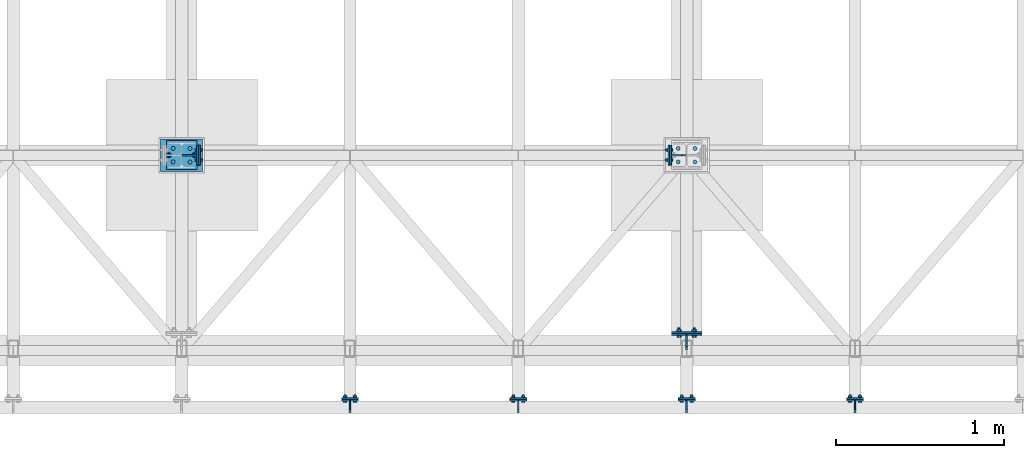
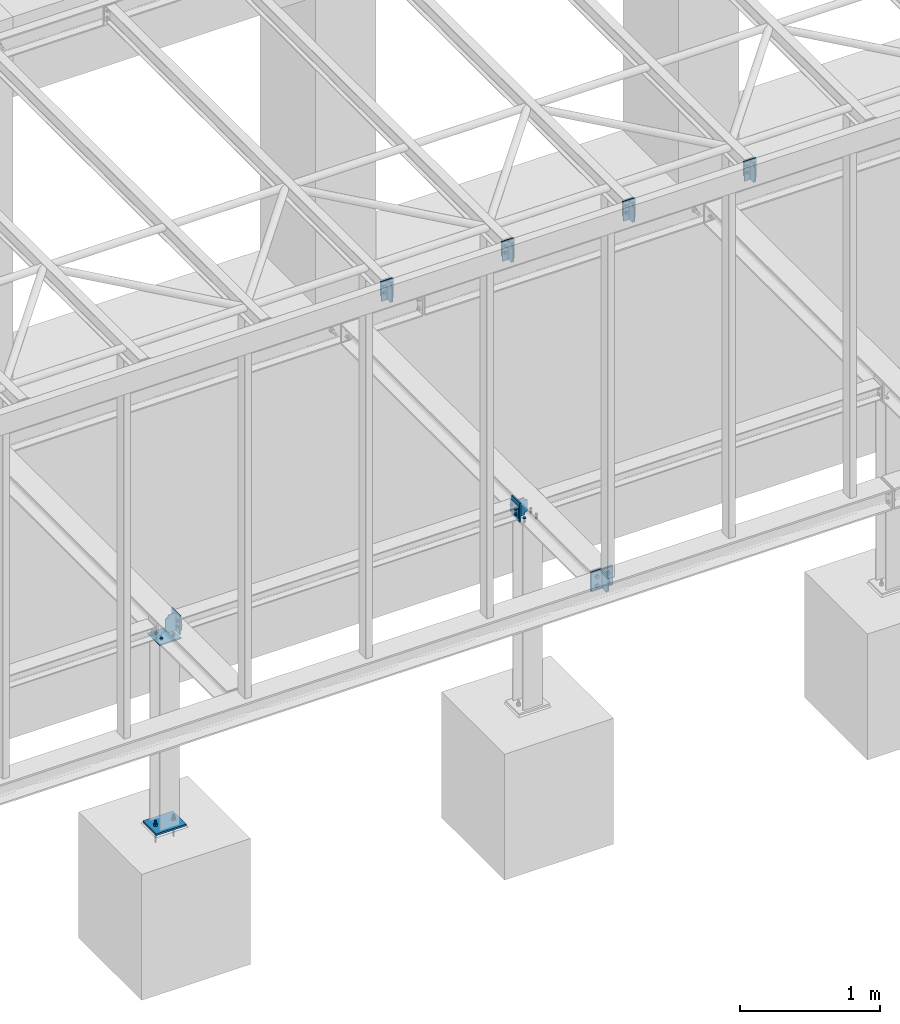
# One storey, part 13 of 23: 23 discrete accessories, 10 mechanical fasteners, 12 elements without a shape of their own.
"""IFC2X3 building model written with IfcOpenShell, lengths in millimetres."""

from ifc_helpers import new_model, si_unit, frame, frame_2d, origin_with_axes, origin_2d_with_axis, place, context, subcontext, project, spatial, polyline, circle_curve, parameter, trimmed, segment, composite_curve, circle, outline, extrude, source, transform, mapped, material, type_object, element, aggregate, save


model = new_model("IFC2X3")

# Units and contexts
model_context = context("Model", 3, precision=1e-05, world=origin_with_axes())
body_context = subcontext(model_context, "Body", "Model", "MODEL_VIEW")
ifc_project = project(units=[si_unit("LENGTHUNIT", "METRE", prefix="MILLI"), si_unit("AREAUNIT", "SQUARE_METRE"), si_unit("VOLUMEUNIT", "CUBIC_METRE"), si_unit("MASSUNIT", "GRAM", prefix="KILO"), si_unit("TIMEUNIT", "SECOND"), si_unit("PLANEANGLEUNIT", "RADIAN"), si_unit("SOLIDANGLEUNIT", "STERADIAN"), si_unit("THERMODYNAMICTEMPERATUREUNIT", "DEGREE_CELSIUS"), si_unit("LUMINOUSINTENSITYUNIT", "LUMEN")], contexts=[model_context])

# Site, building, storey
site_placement = place(None, origin_with_axes())
site = spatial("IfcSite", under=ifc_project, at=site_placement, Name="Undefined", CompositionType="ELEMENT")
building_placement = place(site_placement, origin_with_axes())
building = spatial("IfcBuilding", under=site, at=building_placement, Name="Undefined", CompositionType="ELEMENT")
storey_placement = place(building_placement, origin_with_axes())
storey = spatial("IfcBuildingStorey", under=building, at=storey_placement, Name="Undefined", CompositionType="ELEMENT", Elevation=0.0)

# Assembly, discrete accessory
assembly_1_placement = place(storey_placement, origin_with_axes())
assembly_1 = element("IfcElementAssembly", 1, at=assembly_1_placement, inside=storey, Name="Steel Assembly", AssemblyPlace="NOTDEFINED", PredefinedType="RIGID_FRAME")
ifc_material_1 = material(Name="STEEL/S235JR")
discrete_accessory_type_1 = type_object("IfcDiscreteAccessoryType", Name="PLECH")
discrete_accessory_1_placement = place(assembly_1_placement, frame((7050.0, -200.0, 3289.5), z_axis=(1.0, 0.0, 0.0), x_axis=(0.0, -1.0, 0.0)))
discrete_accessory_1 = element("IfcDiscreteAccessory", 2, at=discrete_accessory_1_placement, type_object=discrete_accessory_type_1, material=ifc_material_1, Name="PLECH", ObjectType="PL8*70", context=body_context, shape_type="SweptSolid", body=[
    extrude(outline(composite_curve([segment(polyline([(0.0, 0.0), (49.5, 0.0)]), True, "CONTINUOUS"), segment(trimmed(circle_curve(frame_2d((69.5, 0.0), x_axis=(-1.0, 0.0)), 20.0), [parameter(0.0)], [parameter(4.71238898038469)], False, "PARAMETER"), True, "CONTINUOUS"), segment(polyline([(69.5, 20.0), (69.5, 139.0)]), True, "CONTINUOUS"), segment(trimmed(circle_curve(frame_2d((69.5, 159.0), x_axis=(0.0, -1.0)), 20.0), [parameter(0.0)], [parameter(4.71238898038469)], False, "PARAMETER"), True, "CONTINUOUS"), segment(polyline([(49.5, 159.0), (0.0, 159.0), (0.0, 0.0)]), True, "DISCONTINUOUS")], self_intersect=False)), frame((0.0, 0.0, -4.0), z_axis=(0.0, 0.0, 1.0), x_axis=(1.0, 0.0, 0.0)), (0.0, 0.0, 1.0), 8.0),
])

assembly_2_placement = place(storey_placement, origin_with_axes())
assembly_2 = element("IfcElementAssembly", 3, at=assembly_2_placement, inside=storey, Name="Steel Assembly", AssemblyPlace="NOTDEFINED", PredefinedType="RIGID_FRAME")
discrete_accessory_2_placement = place(assembly_2_placement, frame((7000.0, -185.0, 3166.5), z_axis=(0.0, 1.0, 0.0), x_axis=(0.0, 0.0, 1.0)))
discrete_accessory_2 = element("IfcDiscreteAccessory", 4, at=discrete_accessory_2_placement, type_object=discrete_accessory_type_1, material=ifc_material_1, Name="PLECH", ObjectType="PL10*100", context=body_context, shape_type="SweptSolid", body=[
    extrude(outline(polyline([(0.0, 0.0), (127.0, 0.0), (127.0, 100.0), (-9.09494701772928e-13, 100.0), (0.0, 0.0)])), frame((0.0, 0.0, -5.0), z_axis=(0.0, 0.0, 1.0), x_axis=(1.0, 0.0, 0.0)), (0.0, 0.0, 1.0), 10.0),
])
aggregate(assembly_2, [discrete_accessory_2])

# Discrete accessory
discrete_accessory_3_placement = place(assembly_1_placement, frame((7000.0, -195.0, 3127.5), z_axis=(0.0, 1.0, 0.0), x_axis=(0.0, 0.0, 1.0)))
discrete_accessory_3 = element("IfcDiscreteAccessory", 5, at=discrete_accessory_3_placement, type_object=discrete_accessory_type_1, material=ifc_material_1, Name="PLECH", ObjectType="PL10*100", context=body_context, shape_type="SweptSolid", body=[
    extrude(outline(polyline([(0.0, 0.0), (166.000015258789, 0.0), (166.000015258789, 100.0), (-9.09494701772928e-13, 100.0), (0.0, 0.0)])), frame((0.0, 0.0, -5.0), z_axis=(0.0, 0.0, 1.0), x_axis=(1.0, 0.0, 0.0)), (0.0, 0.0, 1.0), 10.0),
])

# Assembly, discrete accessory
assembly_3_placement = place(storey_placement, origin_with_axes())
assembly_3 = element("IfcElementAssembly", 6, at=assembly_3_placement, inside=storey, Name="Steel Assembly", AssemblyPlace="NOTDEFINED", PredefinedType="RIGID_FRAME")
discrete_accessory_4_placement = place(assembly_3_placement, frame((6050.0, -200.0, 3289.5), z_axis=(1.0, 0.0, 0.0), x_axis=(0.0, -1.0, 0.0)))
discrete_accessory_4 = element("IfcDiscreteAccessory", 7, at=discrete_accessory_4_placement, type_object=discrete_accessory_type_1, material=ifc_material_1, Name="PLECH", ObjectType="PL8*70", context=body_context, shape_type="SweptSolid", body=[
    extrude(outline(composite_curve([segment(polyline([(0.0, 0.0), (49.5, 0.0)]), True, "CONTINUOUS"), segment(trimmed(circle_curve(frame_2d((69.5, 0.0), x_axis=(-1.0, 0.0)), 20.0), [parameter(0.0)], [parameter(4.71238898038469)], False, "PARAMETER"), True, "CONTINUOUS"), segment(polyline([(69.5, 20.0), (69.5, 139.0)]), True, "CONTINUOUS"), segment(trimmed(circle_curve(frame_2d((69.5, 159.0), x_axis=(0.0, -1.0)), 20.0), [parameter(0.0)], [parameter(4.71238898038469)], False, "PARAMETER"), True, "CONTINUOUS"), segment(polyline([(49.5, 159.0), (0.0, 159.0), (0.0, 0.0)]), True, "DISCONTINUOUS")], self_intersect=False)), frame((0.0, 0.0, -4.0), z_axis=(0.0, 0.0, 1.0), x_axis=(1.0, 0.0, 0.0)), (0.0, 0.0, 1.0), 8.0),
])

assembly_4_placement = place(storey_placement, origin_with_axes())
assembly_4 = element("IfcElementAssembly", 8, at=assembly_4_placement, inside=storey, Name="Steel Assembly", AssemblyPlace="NOTDEFINED", PredefinedType="RIGID_FRAME")
discrete_accessory_5_placement = place(assembly_4_placement, frame((6000.0, -185.0, 3166.5), z_axis=(0.0, 1.0, 0.0), x_axis=(0.0, 0.0, 1.0)))
discrete_accessory_5 = element("IfcDiscreteAccessory", 9, at=discrete_accessory_5_placement, type_object=discrete_accessory_type_1, material=ifc_material_1, Name="PLECH", ObjectType="PL10*100", context=body_context, shape_type="SweptSolid", body=[
    extrude(outline(polyline([(0.0, 0.0), (127.0, 0.0), (127.0, 100.0), (-9.09494701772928e-13, 100.0), (0.0, 0.0)])), frame((0.0, 0.0, -5.0), z_axis=(0.0, 0.0, 1.0), x_axis=(1.0, 0.0, 0.0)), (0.0, 0.0, 1.0), 10.0),
])
aggregate(assembly_4, [discrete_accessory_5])

# Discrete accessory
discrete_accessory_6_placement = place(assembly_3_placement, frame((6000.0, -195.0, 3127.5), z_axis=(0.0, 1.0, 0.0), x_axis=(0.0, 0.0, 1.0)))
discrete_accessory_6 = element("IfcDiscreteAccessory", 10, at=discrete_accessory_6_placement, type_object=discrete_accessory_type_1, material=ifc_material_1, Name="PLECH", ObjectType="PL10*100", context=body_context, shape_type="SweptSolid", body=[
    extrude(outline(polyline([(0.0, 0.0), (166.000015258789, 0.0), (166.000015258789, 100.0), (-9.09494701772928e-13, 100.0), (0.0, 0.0)])), frame((0.0, 0.0, -5.0), z_axis=(0.0, 0.0, 1.0), x_axis=(1.0, 0.0, 0.0)), (0.0, 0.0, 1.0), 10.0),
])

discrete_accessory_7_placement = place(assembly_3_placement, frame((5050.0, -200.0, 3289.5), z_axis=(1.0, 0.0, 0.0), x_axis=(0.0, -1.0, 0.0)))
discrete_accessory_7 = element("IfcDiscreteAccessory", 11, at=discrete_accessory_7_placement, type_object=discrete_accessory_type_1, material=ifc_material_1, Name="PLECH", ObjectType="PL8*70", context=body_context, shape_type="SweptSolid", body=[
    extrude(outline(composite_curve([segment(polyline([(0.0, 0.0), (49.5, 0.0)]), True, "CONTINUOUS"), segment(trimmed(circle_curve(frame_2d((69.5, 0.0), x_axis=(-1.0, 0.0)), 20.0), [parameter(0.0)], [parameter(4.71238898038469)], False, "PARAMETER"), True, "CONTINUOUS"), segment(polyline([(69.5, 20.0), (69.5, 139.0)]), True, "CONTINUOUS"), segment(trimmed(circle_curve(frame_2d((69.5, 159.0), x_axis=(0.0, -1.0)), 20.0), [parameter(0.0)], [parameter(4.71238898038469)], False, "PARAMETER"), True, "CONTINUOUS"), segment(polyline([(49.5, 159.0), (0.0, 159.0), (0.0, 0.0)]), True, "DISCONTINUOUS")], self_intersect=False)), frame((0.0, 0.0, -4.0), z_axis=(0.0, 0.0, 1.0), x_axis=(1.0, 0.0, 0.0)), (0.0, 0.0, 1.0), 8.0),
])

# Assembly, discrete accessory
assembly_5_placement = place(storey_placement, origin_with_axes())
assembly_5 = element("IfcElementAssembly", 12, at=assembly_5_placement, inside=storey, Name="Steel Assembly", AssemblyPlace="NOTDEFINED", PredefinedType="RIGID_FRAME")
discrete_accessory_8_placement = place(assembly_5_placement, frame((5000.0, -185.0, 3166.5), z_axis=(0.0, 1.0, 0.0), x_axis=(0.0, 0.0, 1.0)))
discrete_accessory_8 = element("IfcDiscreteAccessory", 13, at=discrete_accessory_8_placement, type_object=discrete_accessory_type_1, material=ifc_material_1, Name="PLECH", ObjectType="PL10*100", context=body_context, shape_type="SweptSolid", body=[
    extrude(outline(polyline([(0.0, 0.0), (127.0, 0.0), (127.0, 100.0), (-9.09494701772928e-13, 100.0), (0.0, 0.0)])), frame((0.0, 0.0, -5.0), z_axis=(0.0, 0.0, 1.0), x_axis=(1.0, 0.0, 0.0)), (0.0, 0.0, 1.0), 10.0),
])
aggregate(assembly_5, [discrete_accessory_8])

# Discrete accessory
discrete_accessory_9_placement = place(assembly_3_placement, frame((5000.0, -195.0, 3127.5), z_axis=(0.0, 1.0, 0.0), x_axis=(0.0, 0.0, 1.0)))
discrete_accessory_9 = element("IfcDiscreteAccessory", 14, at=discrete_accessory_9_placement, type_object=discrete_accessory_type_1, material=ifc_material_1, Name="PLECH", ObjectType="PL10*100", context=body_context, shape_type="SweptSolid", body=[
    extrude(outline(polyline([(0.0, 0.0), (166.000015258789, 0.0), (166.000015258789, 100.0), (-9.09494701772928e-13, 100.0), (0.0, 0.0)])), frame((0.0, 0.0, -5.0), z_axis=(0.0, 0.0, 1.0), x_axis=(1.0, 0.0, 0.0)), (0.0, 0.0, 1.0), 10.0),
])

discrete_accessory_10_placement = place(assembly_3_placement, frame((4050.0, -200.0, 3289.5), z_axis=(1.0, 0.0, 0.0), x_axis=(0.0, -1.0, 0.0)))
discrete_accessory_10 = element("IfcDiscreteAccessory", 15, at=discrete_accessory_10_placement, type_object=discrete_accessory_type_1, material=ifc_material_1, Name="PLECH", ObjectType="PL8*70", context=body_context, shape_type="SweptSolid", body=[
    extrude(outline(composite_curve([segment(polyline([(0.0, 0.0), (49.5, 0.0)]), True, "CONTINUOUS"), segment(trimmed(circle_curve(frame_2d((69.5, 0.0), x_axis=(-1.0, 0.0)), 20.0), [parameter(0.0)], [parameter(4.71238898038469)], False, "PARAMETER"), True, "CONTINUOUS"), segment(polyline([(69.5, 20.0), (69.5, 139.0)]), True, "CONTINUOUS"), segment(trimmed(circle_curve(frame_2d((69.5, 159.0), x_axis=(0.0, -1.0)), 20.0), [parameter(0.0)], [parameter(4.71238898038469)], False, "PARAMETER"), True, "CONTINUOUS"), segment(polyline([(49.5, 159.0), (0.0, 159.0), (0.0, 0.0)]), True, "DISCONTINUOUS")], self_intersect=False)), frame((0.0, 0.0, -4.0), z_axis=(0.0, 0.0, 1.0), x_axis=(1.0, 0.0, 0.0)), (0.0, 0.0, 1.0), 8.0),
])

# Assembly, discrete accessory
assembly_6_placement = place(storey_placement, origin_with_axes())
assembly_6 = element("IfcElementAssembly", 16, at=assembly_6_placement, inside=storey, Name="Steel Assembly", AssemblyPlace="NOTDEFINED", PredefinedType="RIGID_FRAME")
discrete_accessory_11_placement = place(assembly_6_placement, frame((4000.0, -185.0, 3166.5), z_axis=(0.0, 1.0, 0.0), x_axis=(0.0, 0.0, 1.0)))
discrete_accessory_11 = element("IfcDiscreteAccessory", 17, at=discrete_accessory_11_placement, type_object=discrete_accessory_type_1, material=ifc_material_1, Name="PLECH", ObjectType="PL10*100", context=body_context, shape_type="SweptSolid", body=[
    extrude(outline(polyline([(0.0, 0.0), (127.0, 0.0), (127.0, 100.0), (-9.09494701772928e-13, 100.0), (0.0, 0.0)])), frame((0.0, 0.0, -5.0), z_axis=(0.0, 0.0, 1.0), x_axis=(1.0, 0.0, 0.0)), (0.0, 0.0, 1.0), 10.0),
])
aggregate(assembly_6, [discrete_accessory_11])

# Discrete accessory
discrete_accessory_12_placement = place(assembly_3_placement, frame((4000.0, -195.0, 3127.5), z_axis=(0.0, 1.0, 0.0), x_axis=(0.0, 0.0, 1.0)))
discrete_accessory_12 = element("IfcDiscreteAccessory", 18, at=discrete_accessory_12_placement, type_object=discrete_accessory_type_1, material=ifc_material_1, Name="PLECH", ObjectType="PL10*100", context=body_context, shape_type="SweptSolid", body=[
    extrude(outline(polyline([(0.0, 0.0), (166.000015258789, 0.0), (166.000015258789, 100.0), (-9.09494701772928e-13, 100.0), (0.0, 0.0)])), frame((0.0, 0.0, -5.0), z_axis=(0.0, 0.0, 1.0), x_axis=(1.0, 0.0, 0.0)), (0.0, 0.0, 1.0), 10.0),
])

# Assembly, discrete accessory
assembly_7_placement = place(storey_placement, origin_with_axes())
assembly_7 = element("IfcElementAssembly", 19, at=assembly_7_placement, inside=storey, Name="Steel Assembly", AssemblyPlace="NOTDEFINED", PredefinedType="RIGID_FRAME")
discrete_accessory_13_placement = place(assembly_7_placement, frame((3140.0, 1346.0, -345.0), z_axis=(0.0, 0.0, 1.0), x_axis=(-1.0, 0.0, 0.0)))
discrete_accessory_13 = element("IfcDiscreteAccessory", 20, at=discrete_accessory_13_placement, type_object=discrete_accessory_type_1, material=ifc_material_1, Name="PLECH", ObjectType="PL10*172", context=body_context, shape_type="SweptSolid", body=[
    extrude(outline(polyline([(0.0, 0.0), (180.0, 0.0), (180.0, 172.0), (0.0, 172.0), (0.0, 0.0)])), frame((0.0, 0.0, -5.0), z_axis=(0.0, 0.0, 1.0), x_axis=(1.0, 0.0, 0.0)), (0.0, 0.0, 1.0), 10.0),
])

# Assembly, discrete accessories
assembly_8_placement = place(storey_placement, origin_with_axes())
assembly_8 = element("IfcElementAssembly", 21, at=assembly_8_placement, inside=storey, Name="Steel Assembly", AssemblyPlace="NOTDEFINED", PredefinedType="RIGID_FRAME")
discrete_accessory_14_placement = place(assembly_8_placement, frame((5960.0, 195.0, -168.0), z_axis=(0.0, 1.0, 0.0), x_axis=(1.0, 0.0, 0.0)))
discrete_accessory_14 = element("IfcDiscreteAccessory", 22, at=discrete_accessory_14_placement, type_object=discrete_accessory_type_1, material=ifc_material_1, Name="PLECH", ObjectType="PL10*164", context=body_context, shape_type="SweptSolid", body=[
    extrude(outline(polyline([(0.0, 0.0), (180.0, 0.0), (180.0, 164.0), (0.0, 164.0), (0.0, 0.0)])), frame((0.0, 0.0, -5.0), z_axis=(0.0, 0.0, 1.0), x_axis=(1.0, 0.0, 0.0)), (0.0, 0.0, 1.0), 10.0),
])
discrete_accessory_15_placement = place(assembly_8_placement, frame((6050.0, 190.0, -174.0), z_axis=(1.0, 0.0, 0.0), x_axis=(0.0, -1.0, 0.0)))
discrete_accessory_15 = element("IfcDiscreteAccessory", 23, at=discrete_accessory_15_placement, type_object=discrete_accessory_type_1, material=ifc_material_1, Name="PLECH", ObjectType="PL8*86", context=body_context, shape_type="SweptSolid", body=[
    extrude(outline(composite_curve([segment(polyline([(0.0, 0.0), (65.75, 0.0)]), True, "CONTINUOUS"), segment(trimmed(circle_curve(frame_2d((85.75, 0.0), x_axis=(-1.0, 0.0)), 20.0), [parameter(0.0)], [parameter(4.71238898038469)], False, "PARAMETER"), True, "CONTINUOUS"), segment(polyline([(85.75, 20.0), (85.75, 132.0)]), True, "CONTINUOUS"), segment(trimmed(circle_curve(frame_2d((85.75, 152.0), x_axis=(0.0, -1.0)), 20.0), [parameter(0.0)], [parameter(4.71238898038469)], False, "PARAMETER"), True, "CONTINUOUS"), segment(polyline([(65.75, 152.0), (0.0, 152.0), (0.0, 0.0)]), True, "DISCONTINUOUS")], self_intersect=False)), frame((0.0, 0.0, -4.0), z_axis=(0.0, 0.0, 1.0), x_axis=(1.0, 0.0, 0.0)), (0.0, 0.0, 1.0), 8.0),
])

assembly_9_placement = place(storey_placement, origin_with_axes())
assembly_9 = element("IfcElementAssembly", 24, at=assembly_9_placement, inside=storey, Name="Steel Assembly", AssemblyPlace="NOTDEFINED", PredefinedType="RIGID_FRAME")
discrete_accessory_16_placement = place(assembly_9_placement, frame((5960.0, 205.0, -168.0), z_axis=(0.0, 1.0, 0.0), x_axis=(1.0, 0.0, 0.0)))
discrete_accessory_16 = element("IfcDiscreteAccessory", 25, at=discrete_accessory_16_placement, type_object=discrete_accessory_type_1, material=ifc_material_1, Name="PLECH", ObjectType="PL10*164", context=body_context, shape_type="SweptSolid", body=[
    extrude(outline(polyline([(0.0, 0.0), (180.0, 0.0), (180.0, 164.0), (0.0, 164.0), (0.0, 0.0)])), frame((0.0, 0.0, -5.0), z_axis=(0.0, 0.0, 1.0), x_axis=(1.0, 0.0, 0.0)), (0.0, 0.0, 1.0), 10.0),
])
discrete_accessory_17_placement = place(assembly_9_placement, frame((5960.0, 1260.0, -174.0), z_axis=(0.0, 1.0, 0.0), x_axis=(1.0, 0.0, 0.0)))
discrete_accessory_17 = element("IfcDiscreteAccessory", 26, at=discrete_accessory_17_placement, type_object=discrete_accessory_type_1, material=ifc_material_1, Name="PLECH", ObjectType="PL8*86", context=body_context, shape_type="SweptSolid", body=[
    extrude(outline(composite_curve([segment(polyline([(0.0, 0.0), (60.5, 0.0)]), True, "CONTINUOUS"), segment(trimmed(circle_curve(frame_2d((85.5, 0.0), x_axis=(-1.0, 0.0)), 25.0), [parameter(0.0)], [parameter(4.71238898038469)], False, "PARAMETER"), True, "CONTINUOUS"), segment(polyline([(85.5, 25.0), (85.5, 127.0)]), True, "CONTINUOUS"), segment(trimmed(circle_curve(frame_2d((85.5, 152.0), x_axis=(0.0, -1.0)), 25.0), [parameter(0.0)], [parameter(4.71238898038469)], False, "PARAMETER"), True, "CONTINUOUS"), segment(polyline([(60.5, 152.0), (0.0, 152.0), (0.0, 0.0)]), True, "DISCONTINUOUS")], self_intersect=False)), frame((0.0, 0.0, -4.0), z_axis=(0.0, 0.0, 1.0), x_axis=(1.0, 0.0, 0.0)), (0.0, 0.0, 1.0), 8.0),
])

# Assembly, discrete accessory
assembly_10_placement = place(storey_placement, origin_with_axes())
assembly_10 = element("IfcElementAssembly", 27, at=assembly_10_placement, inside=storey, Name="Steel Assembly", AssemblyPlace="NOTDEFINED", PredefinedType="RIGID_FRAME")
discrete_accessory_18_placement = place(assembly_10_placement, frame((3155.0, 1200.0, -299.0), z_axis=(-1.0, 0.0, 0.0), x_axis=(0.0, 0.0, 1.0)))
discrete_accessory_18 = element("IfcDiscreteAccessory", 28, at=discrete_accessory_18_placement, type_object=discrete_accessory_type_1, material=ifc_material_1, Name="PLECH", ObjectType="PL10*98", context=body_context, shape_type="SweptSolid", body=[
    extrude(outline(polyline([(0.0, 0.0), (98.0, 4.54747350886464e-13), (98.0, 120.0), (0.0, 120.0), (0.0, 0.0)])), frame((0.0, 0.0, -5.0), z_axis=(0.0, 0.0, 1.0), x_axis=(1.0, 0.0, 0.0)), (0.0, 0.0, 1.0), 10.0),
])

# Assembly, discrete accessories
assembly_11_placement = place(storey_placement, origin_with_axes())
assembly_11 = element("IfcElementAssembly", 29, at=assembly_11_placement, inside=storey, Name="Steel Assembly", AssemblyPlace="NOTDEFINED", PredefinedType="RIGID_FRAME")
discrete_accessory_19_placement = place(assembly_11_placement, frame((3140.0, 1260.0, -174.0), z_axis=(0.0, -1.0, 0.0), x_axis=(-1.0, 0.0, 0.0)))
discrete_accessory_19 = element("IfcDiscreteAccessory", 30, at=discrete_accessory_19_placement, type_object=discrete_accessory_type_1, material=ifc_material_1, Name="PLECH", ObjectType="PL8*86", context=body_context, shape_type="SweptSolid", body=[
    extrude(outline(composite_curve([segment(polyline([(0.0, 0.0), (60.5, 0.0)]), True, "CONTINUOUS"), segment(trimmed(circle_curve(frame_2d((85.5, 0.0), x_axis=(-1.0, 0.0)), 25.0), [parameter(0.0)], [parameter(4.71238898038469)], False, "PARAMETER"), True, "CONTINUOUS"), segment(polyline([(85.5, 25.0), (85.5, 127.0)]), True, "CONTINUOUS"), segment(trimmed(circle_curve(frame_2d((85.5, 152.0), x_axis=(0.0, -1.0)), 25.0), [parameter(0.0)], [parameter(4.71238898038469)], False, "PARAMETER"), True, "CONTINUOUS"), segment(polyline([(60.5, 152.0), (0.0, 152.0), (0.0, 0.0)]), True, "DISCONTINUOUS")], self_intersect=False)), frame((0.0, 0.0, -4.0), z_axis=(0.0, 0.0, 1.0), x_axis=(1.0, 0.0, 0.0)), (0.0, 0.0, 1.0), 8.0),
])
discrete_accessory_20_placement = place(assembly_11_placement, frame((3145.0, 1200.0, -332.0), z_axis=(-1.0, 0.0, 0.0), x_axis=(0.0, 0.0, 1.0)))
discrete_accessory_20 = element("IfcDiscreteAccessory", 31, at=discrete_accessory_20_placement, type_object=discrete_accessory_type_1, material=ifc_material_1, Name="PLECH", ObjectType="PL10*120", context=body_context, shape_type="SweptSolid", body=[
    extrude(outline(polyline([(0.0, 0.0), (164.0, 4.54747350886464e-13), (164.0, 120.0), (0.0, 120.0), (0.0, 0.0)])), frame((0.0, 0.0, -5.0), z_axis=(0.0, 0.0, 1.0), x_axis=(1.0, 0.0, 0.0)), (0.0, 0.0, 1.0), 10.0),
])

# Discrete accessory
discrete_accessory_21_placement = place(assembly_10_placement, frame((5945.0, 1200.0, -299.0), z_axis=(-1.0, 0.0, 0.0), x_axis=(0.0, 0.0, 1.0)))
discrete_accessory_21 = element("IfcDiscreteAccessory", 32, at=discrete_accessory_21_placement, type_object=discrete_accessory_type_1, material=ifc_material_1, Name="PLECH", ObjectType="PL10*98", context=body_context, shape_type="SweptSolid", body=[
    extrude(outline(polyline([(0.0, 0.0), (98.0, 4.54747350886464e-13), (98.0, 120.0), (0.0, 120.0), (0.0, 0.0)])), frame((0.0, 0.0, -5.0), z_axis=(0.0, 0.0, 1.0), x_axis=(1.0, 0.0, 0.0)), (0.0, 0.0, 1.0), 10.0),
])

aggregate(assembly_10, [discrete_accessory_18, discrete_accessory_21])

discrete_accessory_22_placement = place(assembly_9_placement, frame((5955.0, 1200.0, -332.0), z_axis=(-1.0, 0.0, 0.0), x_axis=(0.0, 0.0, 1.0)))
discrete_accessory_22 = element("IfcDiscreteAccessory", 33, at=discrete_accessory_22_placement, type_object=discrete_accessory_type_1, material=ifc_material_1, Name="PLECH", ObjectType="PL10*120", context=body_context, shape_type="SweptSolid", body=[
    extrude(outline(polyline([(0.0, 0.0), (164.0, 4.54747350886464e-13), (164.0, 120.0), (0.0, 120.0), (0.0, 0.0)])), frame((0.0, 0.0, -5.0), z_axis=(0.0, 0.0, 1.0), x_axis=(1.0, 0.0, 0.0)), (0.0, 0.0, 1.0), 10.0),
])

discrete_accessory_23_placement = place(assembly_7_placement, frame((3175.0, 1356.0, -1982.5), z_axis=(0.0, 0.0, 1.0), x_axis=(-1.0, 0.0, 0.0)))
discrete_accessory_23 = element("IfcDiscreteAccessory", 34, at=discrete_accessory_23_placement, type_object=discrete_accessory_type_1, material=ifc_material_1, Name="PLECH", ObjectType="PL15*192", context=body_context, shape_type="SweptSolid", body=[
    extrude(outline(polyline([(0.0, 0.0), (250.0, 0.0), (250.0, 192.0), (0.0, 192.0), (0.0, 0.0)])), frame((0.0, 0.0, -7.5), z_axis=(0.0, 0.0, 1.0), x_axis=(1.0, 0.0, 0.0)), (0.0, 0.0, 1.0), 15.0),
])

# Mechanical fastener
ifc_material_2 = material(Name="Undefined")
discrete_accessory_type_2 = type_object("IfcDiscreteAccessoryType", Name="Bolt assembly")
shared_shape_1 = source(origin_with_axes(), body_context, "Body", "SweptSolid", [
    extrude(circle(Radius=9.0, at=origin_2d_with_axis()), frame((0.0, -15.0, 0.0), z_axis=(0.0, 1.0, 0.0), x_axis=(1.0, 0.0, 0.0)), (0.0, 0.0, 1.0), 15.1),
    extrude(outline(polyline([(7.73649338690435, 0.0), (3.86824669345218, 6.69999980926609), (-3.86824669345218, 6.69999980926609), (-7.73649338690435, 0.0), (-3.86824669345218, -6.69999980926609), (3.86824669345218, -6.69999980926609), (7.73649338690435, 0.0)])), frame((0.0, -147.0, 0.0), z_axis=(0.0, 1.0, 0.0), x_axis=(1.0, 0.0, 0.0)), (0.0, 0.0, 1.0), 132.0),
    extrude(circle(Radius=8.0, at=origin_2d_with_axis()), frame((0.0, -15.0, 0.0), z_axis=(0.0, 1.0, 0.0), x_axis=(1.0, 0.0, 0.0)), (0.0, 0.0, 1.0), 58.0),
    extrude(circle(Radius=15.0, at=origin_2d_with_axis()), frame((0.0, 0.0, 0.0), z_axis=(0.0, 1.0, 0.0), x_axis=(1.0, 0.0, 0.0)), (0.0, 0.0, 1.0), 3.0),
    extrude(outline(polyline([(15.4441197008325, 0.0), (7.72205985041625, 13.3750000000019), (-7.72205985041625, 13.3750000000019), (-15.4441197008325, 0.0), (-7.72205985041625, -13.3750000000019), (7.72205985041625, -13.3750000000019), (15.4441197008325, 0.0)])), frame((0.0, 3.0, 0.0), z_axis=(0.0, 1.0, 0.0), x_axis=(1.0, 0.0, 0.0)), (0.0, 0.0, 1.0), 13.0),
])
mechanical_fastener_1_placement = place(assembly_7_placement, frame((2975.0, 1260.0, -1975.0), z_axis=(0.0, -1.0, 0.0), x_axis=(1.0, 0.0, 0.0)))
mechanical_fastener_1 = element("IfcMechanicalFastener", 35, at=mechanical_fastener_1_placement, type_object=discrete_accessory_type_2, material=ifc_material_2, Name="Bolt assembly", NominalDiameter=16.0, NominalLength=58.0, context=body_context, shape_type="MappedRepresentation", body=[
    mapped(shared_shape_1, transform((0.0, 0.0, 0.0))),
    mapped(shared_shape_1, transform((150.0, 0.0, 0.0))),
])

shared_shape_2 = source(origin_with_axes(), body_context, "Body", "SweptSolid", [
    extrude(circle(Radius=9.0, at=origin_2d_with_axis()), frame((0.0, -0.1, 0.0), z_axis=(0.0, 1.0, 0.0), x_axis=(1.0, 0.0, 0.0)), (0.0, 0.0, 1.0), 10.1),
    extrude(circle(Radius=9.0, at=origin_2d_with_axis()), frame((0.0, -9.9, 0.0), z_axis=(0.0, 1.0, 0.0), x_axis=(1.0, 0.0, 0.0)), (0.0, 0.0, 1.0), 10.0),
    extrude(outline(polyline([(13.85640646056, 0.0), (6.92820323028, 12.0000000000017), (-6.92820323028, 12.0000000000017), (-13.85640646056, 0.0), (-6.92820323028, -12.0000000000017), (6.92820323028, -12.0000000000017), (13.85640646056, 0.0)])), frame((0.0, -23.0, 0.0), z_axis=(0.0, 1.0, 0.0), x_axis=(1.0, 0.0, 0.0)), (0.0, 0.0, 1.0), 10.0),
    extrude(circle(Radius=8.0, at=origin_2d_with_axis()), frame((0.0, -13.0, 0.0), z_axis=(0.0, 1.0, 0.0), x_axis=(1.0, 0.0, 0.0)), (0.0, 0.0, 1.0), 50.0),
    extrude(circle(Radius=15.0, at=origin_2d_with_axis()), frame((0.0, -13.0, 0.0), z_axis=(0.0, 1.0, 0.0), x_axis=(1.0, 0.0, 0.0)), (0.0, 0.0, 1.0), 3.0),
    extrude(circle(Radius=15.0, at=origin_2d_with_axis()), frame((0.0, 10.0, 0.0), z_axis=(0.0, 1.0, 0.0), x_axis=(1.0, 0.0, 0.0)), (0.0, 0.0, 1.0), 3.0),
    extrude(outline(polyline([(15.4441197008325, 0.0), (7.72205985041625, 13.3750000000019), (-7.72205985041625, 13.3750000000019), (-15.4441197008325, 0.0), (-7.72205985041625, -13.3750000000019), (7.72205985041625, -13.3750000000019), (15.4441197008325, 0.0)])), frame((0.0, 13.0, 0.0), z_axis=(0.0, 1.0, 0.0), x_axis=(1.0, 0.0, 0.0)), (0.0, 0.0, 1.0), 13.0),
])
mechanical_fastener_2_placement = place(assembly_8_placement, frame((6005.0, 200.0, -250.0), z_axis=(0.0, 0.0, 1.0), x_axis=(1.0, 0.0, 0.0)))
mechanical_fastener_2 = element("IfcMechanicalFastener", 36, at=mechanical_fastener_2_placement, type_object=discrete_accessory_type_2, material=ifc_material_2, Name="Bolt assembly", NominalDiameter=16.0, NominalLength=50.0, context=body_context, shape_type="MappedRepresentation", body=[
    mapped(shared_shape_2, transform((0.0, 0.0, -40.0))),
    mapped(shared_shape_2, transform((90.0, 0.0, -40.0))),
    mapped(shared_shape_2, transform((0.0, 0.0, 40.0))),
    mapped(shared_shape_2, transform((90.0, 0.0, 40.0))),
])

aggregate(assembly_8, [mechanical_fastener_2, discrete_accessory_14, discrete_accessory_15])

# Assembly, mechanical fastener
assembly_12_placement = place(storey_placement, origin_with_axes())
assembly_12 = element("IfcElementAssembly", 37, at=assembly_12_placement, inside=storey, Name="Steel Assembly", AssemblyPlace="NOTDEFINED", PredefinedType="RIGID_FRAME")
shared_shape_3 = source(origin_with_axes(), body_context, "Body", "SweptSolid", [
    extrude(circle(Radius=6.5, at=origin_2d_with_axis()), frame((0.0, -13.9, 0.0), z_axis=(0.0, 1.0, 0.0), x_axis=(1.0, 0.0, 0.0)), (0.0, 0.0, 1.0), 14.0),
    extrude(circle(Radius=6.5, at=origin_2d_with_axis()), frame((0.0, -0.1, 0.0), z_axis=(0.0, 1.0, 0.0), x_axis=(1.0, 0.0, 0.0)), (0.0, 0.0, 1.0), 10.1),
    extrude(outline(polyline([(10.39230484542, 0.0), (5.19615242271, 9.00000000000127), (-5.19615242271, 9.00000000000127), (-10.39230484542, 0.0), (-5.19615242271, -9.00000000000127), (5.19615242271, -9.00000000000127), (10.39230484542, 0.0)])), frame((0.0, -24.0, 0.0), z_axis=(0.0, 1.0, 0.0), x_axis=(1.0, 0.0, 0.0)), (0.0, 0.0, 1.0), 7.5),
    extrude(circle(Radius=6.0, at=origin_2d_with_axis()), frame((0.0, -16.5, 0.0), z_axis=(0.0, 1.0, 0.0), x_axis=(1.0, 0.0, 0.0)), (0.0, 0.0, 1.0), 45.0),
    extrude(circle(Radius=12.0, at=origin_2d_with_axis()), frame((0.0, -16.5, 0.0), z_axis=(0.0, 1.0, 0.0), x_axis=(1.0, 0.0, 0.0)), (0.0, 0.0, 1.0), 2.5),
    extrude(circle(Radius=12.0, at=origin_2d_with_axis()), frame((0.0, 10.0, 0.0), z_axis=(0.0, 1.0, 0.0), x_axis=(1.0, 0.0, 0.0)), (0.0, 0.0, 1.0), 2.5),
    extrude(outline(polyline([(10.96965511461, 0.0), (5.484827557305, 9.50000000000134), (-5.484827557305, 9.50000000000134), (-10.96965511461, 0.0), (-5.484827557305, -9.50000000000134), (5.484827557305, -9.50000000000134), (10.96965511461, 0.0)])), frame((0.0, 12.5, 0.0), z_axis=(0.0, 1.0, 0.0), x_axis=(1.0, 0.0, 0.0)), (0.0, 0.0, 1.0), 10.0),
])
mechanical_fastener_3_placement = place(assembly_12_placement, frame((6000.0, 1260.0, -340.0), z_axis=(0.0, 1.0, 0.0), x_axis=(1.0, 0.0, 0.0)))
mechanical_fastener_3 = element("IfcMechanicalFastener", 38, at=mechanical_fastener_3_placement, type_object=discrete_accessory_type_2, material=ifc_material_2, Name="Bolt assembly", NominalDiameter=12.0, NominalLength=45.0, context=body_context, shape_type="MappedRepresentation", body=[
    mapped(shared_shape_3, transform((0.0, 0.0, -40.0))),
    mapped(shared_shape_3, transform((100.0, 0.0, -40.0))),
    mapped(shared_shape_3, transform((0.0, 0.0, 40.0))),
    mapped(shared_shape_3, transform((100.0, 0.0, 40.0))),
])
aggregate(assembly_12, [mechanical_fastener_3])

# Mechanical fastener
mechanical_fastener_4_placement = place(assembly_7_placement, frame((3000.0, 1260.0, -340.0), z_axis=(0.0, 1.0, 0.0), x_axis=(1.0, 0.0, 0.0)))
mechanical_fastener_4 = element("IfcMechanicalFastener", 39, at=mechanical_fastener_4_placement, type_object=discrete_accessory_type_2, material=ifc_material_2, Name="Bolt assembly", NominalDiameter=12.0, NominalLength=45.0, context=body_context, shape_type="MappedRepresentation", body=[
    mapped(shared_shape_3, transform((0.0, 0.0, -40.0))),
    mapped(shared_shape_3, transform((100.0, 0.0, -40.0))),
    mapped(shared_shape_3, transform((0.0, 0.0, 40.0))),
    mapped(shared_shape_3, transform((100.0, 0.0, 40.0))),
])

aggregate(assembly_7, [mechanical_fastener_4, discrete_accessory_13, mechanical_fastener_1, discrete_accessory_23])

shared_shape_4 = source(origin_with_axes(), body_context, "Body", "SweptSolid", [
    extrude(circle(Radius=6.5, at=origin_2d_with_axis()), frame((0.0, -0.1, 0.0), z_axis=(0.0, 1.0, 0.0), x_axis=(1.0, 0.0, 0.0)), (0.0, 0.0, 1.0), 10.1),
    extrude(circle(Radius=6.5, at=origin_2d_with_axis()), frame((0.0, -9.9, 0.0), z_axis=(0.0, 1.0, 0.0), x_axis=(1.0, 0.0, 0.0)), (0.0, 0.0, 1.0), 10.0),
    extrude(outline(polyline([(10.96965511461, 0.0), (5.484827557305, 9.50000000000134), (-5.484827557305, 9.50000000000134), (-10.96965511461, 0.0), (-5.484827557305, -9.50000000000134), (5.484827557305, -9.50000000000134), (10.96965511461, 0.0)])), frame((0.0, -20.0, 0.0), z_axis=(0.0, 1.0, 0.0), x_axis=(1.0, 0.0, 0.0)), (0.0, 0.0, 1.0), 7.5),
    extrude(circle(Radius=6.0, at=origin_2d_with_axis()), frame((0.0, -12.5, 0.0), z_axis=(0.0, 1.0, 0.0), x_axis=(1.0, 0.0, 0.0)), (0.0, 0.0, 1.0), 40.0),
    extrude(circle(Radius=12.0, at=origin_2d_with_axis()), frame((0.0, -12.5, 0.0), z_axis=(0.0, 1.0, 0.0), x_axis=(1.0, 0.0, 0.0)), (0.0, 0.0, 1.0), 2.5),
    extrude(circle(Radius=12.0, at=origin_2d_with_axis()), frame((0.0, 10.0, 0.0), z_axis=(0.0, 1.0, 0.0), x_axis=(1.0, 0.0, 0.0)), (0.0, 0.0, 1.0), 2.5),
    extrude(outline(polyline([(10.96965511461, 0.0), (5.484827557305, 9.50000000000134), (-5.484827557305, 9.50000000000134), (-10.96965511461, 0.0), (-5.484827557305, -9.50000000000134), (5.484827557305, -9.50000000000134), (10.96965511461, 0.0)])), frame((0.0, 12.5, 0.0), z_axis=(0.0, 1.0, 0.0), x_axis=(1.0, 0.0, 0.0)), (0.0, 0.0, 1.0), 10.0),
])
mechanical_fastener_5_placement = place(assembly_1_placement, frame((7020.0, -190.0, 3230.0), z_axis=(0.0, 0.0, 1.0), x_axis=(1.0, 0.0, 0.0)))
mechanical_fastener_5 = element("IfcMechanicalFastener", 40, at=mechanical_fastener_5_placement, type_object=discrete_accessory_type_2, material=ifc_material_2, Name="Bolt assembly", NominalDiameter=12.0, NominalLength=40.0, context=body_context, shape_type="MappedRepresentation", body=[
    mapped(shared_shape_4, transform((0.0, 0.0, 30.0))),
    mapped(shared_shape_4, transform((60.0, 0.0, 30.0))),
    mapped(shared_shape_4, transform((0.0, 0.0, -30.0))),
    mapped(shared_shape_4, transform((60.0, 0.0, -30.0))),
])

aggregate(assembly_1, [mechanical_fastener_5, discrete_accessory_1, discrete_accessory_3])

mechanical_fastener_6_placement = place(assembly_3_placement, frame((6020.0, -190.0, 3230.0), z_axis=(0.0, 0.0, 1.0), x_axis=(1.0, 0.0, 0.0)))
mechanical_fastener_6 = element("IfcMechanicalFastener", 41, at=mechanical_fastener_6_placement, type_object=discrete_accessory_type_2, material=ifc_material_2, Name="Bolt assembly", NominalDiameter=12.0, NominalLength=40.0, context=body_context, shape_type="MappedRepresentation", body=[
    mapped(shared_shape_4, transform((0.0, 0.0, 30.0))),
    mapped(shared_shape_4, transform((60.0, 0.0, 30.0))),
    mapped(shared_shape_4, transform((0.0, 0.0, -30.0))),
    mapped(shared_shape_4, transform((60.0, 0.0, -30.0))),
])

mechanical_fastener_7_placement = place(assembly_3_placement, frame((5020.0, -190.0, 3230.0), z_axis=(0.0, 0.0, 1.0), x_axis=(1.0, 0.0, 0.0)))
mechanical_fastener_7 = element("IfcMechanicalFastener", 42, at=mechanical_fastener_7_placement, type_object=discrete_accessory_type_2, material=ifc_material_2, Name="Bolt assembly", NominalDiameter=12.0, NominalLength=40.0, context=body_context, shape_type="MappedRepresentation", body=[
    mapped(shared_shape_4, transform((0.0, 0.0, 30.0))),
    mapped(shared_shape_4, transform((60.0, 0.0, 30.0))),
    mapped(shared_shape_4, transform((0.0, 0.0, -30.0))),
    mapped(shared_shape_4, transform((60.0, 0.0, -30.0))),
])

mechanical_fastener_8_placement = place(assembly_3_placement, frame((4020.0, -190.0, 3230.0), z_axis=(0.0, 0.0, 1.0), x_axis=(1.0, 0.0, 0.0)))
mechanical_fastener_8 = element("IfcMechanicalFastener", 43, at=mechanical_fastener_8_placement, type_object=discrete_accessory_type_2, material=ifc_material_2, Name="Bolt assembly", NominalDiameter=12.0, NominalLength=40.0, context=body_context, shape_type="MappedRepresentation", body=[
    mapped(shared_shape_4, transform((0.0, 0.0, 30.0))),
    mapped(shared_shape_4, transform((60.0, 0.0, 30.0))),
    mapped(shared_shape_4, transform((0.0, 0.0, -30.0))),
    mapped(shared_shape_4, transform((60.0, 0.0, -30.0))),
])

aggregate(assembly_3, [mechanical_fastener_6, discrete_accessory_4, discrete_accessory_6, mechanical_fastener_7, discrete_accessory_7, discrete_accessory_9, mechanical_fastener_8, discrete_accessory_10, discrete_accessory_12])

shared_shape_5 = source(origin_with_axes(), body_context, "Body", "SweptSolid", [
    extrude(circle(Radius=6.5, at=origin_2d_with_axis()), frame((0.0, -4.1, 0.0), z_axis=(0.0, 1.0, 0.0), x_axis=(1.0, 0.0, 0.0)), (0.0, 0.0, 1.0), 10.1),
    extrude(circle(Radius=6.5, at=origin_2d_with_axis()), frame((0.0, -13.9, 0.0), z_axis=(0.0, 1.0, 0.0), x_axis=(1.0, 0.0, 0.0)), (0.0, 0.0, 1.0), 10.0),
    extrude(outline(polyline([(10.39230484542, 0.0), (5.19615242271, 9.00000000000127), (-5.19615242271, 9.00000000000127), (-10.39230484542, 0.0), (-5.19615242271, -9.00000000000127), (5.19615242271, -9.00000000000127), (10.39230484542, 0.0)])), frame((0.0, -24.0, 0.0), z_axis=(0.0, 1.0, 0.0), x_axis=(1.0, 0.0, 0.0)), (0.0, 0.0, 1.0), 7.5),
    extrude(circle(Radius=6.0, at=origin_2d_with_axis()), frame((0.0, -16.5, 0.0), z_axis=(0.0, 1.0, 0.0), x_axis=(1.0, 0.0, 0.0)), (0.0, 0.0, 1.0), 40.0),
    extrude(circle(Radius=12.0, at=origin_2d_with_axis()), frame((0.0, -16.5, 0.0), z_axis=(0.0, 1.0, 0.0), x_axis=(1.0, 0.0, 0.0)), (0.0, 0.0, 1.0), 2.5),
    extrude(circle(Radius=12.0, at=origin_2d_with_axis()), frame((0.0, 6.0, 0.0), z_axis=(0.0, 1.0, 0.0), x_axis=(1.0, 0.0, 0.0)), (0.0, 0.0, 1.0), 2.5),
    extrude(outline(polyline([(10.96965511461, 0.0), (5.484827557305, 9.50000000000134), (-5.484827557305, 9.50000000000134), (-10.96965511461, 0.0), (-5.484827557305, -9.50000000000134), (5.484827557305, -9.50000000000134), (10.96965511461, 0.0)])), frame((0.0, 8.5, 0.0), z_axis=(0.0, 1.0, 0.0), x_axis=(1.0, 0.0, 0.0)), (0.0, 0.0, 1.0), 10.0),
])
mechanical_fastener_9_placement = place(assembly_11_placement, frame((3154.0, 1260.0, -225.0), z_axis=(0.0, -1.0, 0.0), x_axis=(0.0, 0.0, -1.0)))
mechanical_fastener_9 = element("IfcMechanicalFastener", 44, at=mechanical_fastener_9_placement, type_object=discrete_accessory_type_2, material=ifc_material_2, Name="Bolt assembly", NominalDiameter=12.0, NominalLength=40.0, context=body_context, shape_type="MappedRepresentation", body=[
    mapped(shared_shape_5, transform((0.0, 0.0, 30.0))),
    mapped(shared_shape_5, transform((50.0, 0.0, 30.0))),
    mapped(shared_shape_5, transform((0.0, 0.0, -30.0))),
    mapped(shared_shape_5, transform((50.0, 0.0, -30.0))),
])

aggregate(assembly_11, [mechanical_fastener_9, discrete_accessory_19, discrete_accessory_20])

mechanical_fastener_10_placement = place(assembly_9_placement, frame((5946.0, 1260.0, -225.0), z_axis=(0.0, 1.0, 0.0), x_axis=(0.0, 0.0, -1.0)))
mechanical_fastener_10 = element("IfcMechanicalFastener", 45, at=mechanical_fastener_10_placement, type_object=discrete_accessory_type_2, material=ifc_material_2, Name="Bolt assembly", NominalDiameter=12.0, NominalLength=40.0, context=body_context, shape_type="MappedRepresentation", body=[
    mapped(shared_shape_5, transform((0.0, 0.0, -30.0))),
    mapped(shared_shape_5, transform((50.0, 0.0, -30.0))),
    mapped(shared_shape_5, transform((0.0, 0.0, 30.0))),
    mapped(shared_shape_5, transform((50.0, 0.0, 30.0))),
])

aggregate(assembly_9, [discrete_accessory_16, discrete_accessory_17, mechanical_fastener_10, discrete_accessory_22])

save(model, "model.ifc")
